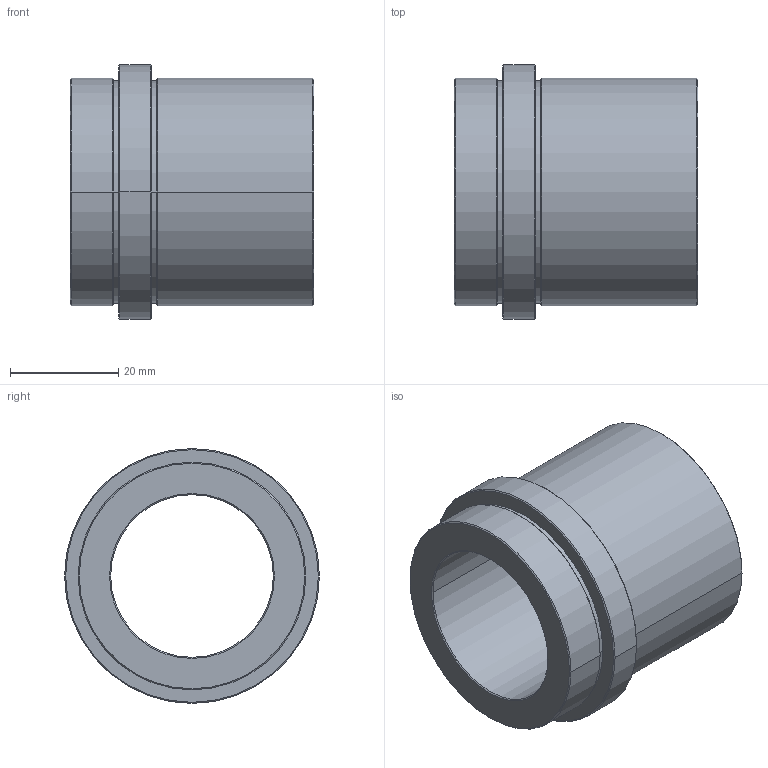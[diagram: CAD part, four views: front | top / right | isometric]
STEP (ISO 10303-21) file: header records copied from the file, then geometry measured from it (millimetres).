
FILE_DESCRIPTION (( 'STEP AP214' ), '1' );
FILE_NAME ('R04_036x30.STEP', '2015-03-05T14:59:00', ( 'TGL' ), ( '' ), 'SwSTEP 2.0', 'SolidWorks 2011', '' );
FILE_SCHEMA (( 'AUTOMOTIVE_DESIGN' ));
Length unit declared in the file: millimetre
Products named in the file (1): R04_036x30
Bounding box: 45 x 47 x 47 mm (x, y, z)
Volume: 32089.4 mm3; surface area: 12310.7 mm2
Topology: 1 solids, 1 shells, 34 faces, 68 edges, 40 vertices
Faces by surface type: cone 14, cylinder 12, plane 6, torus 2
Entity records: 924 total; most frequent: DIRECTION 180, CARTESIAN_POINT 143, ORIENTED_EDGE 136, AXIS2_PLACEMENT_3D 77, EDGE_CURVE 68, CIRCLE 42, VERTEX_POINT 40, EDGE_LOOP 40
